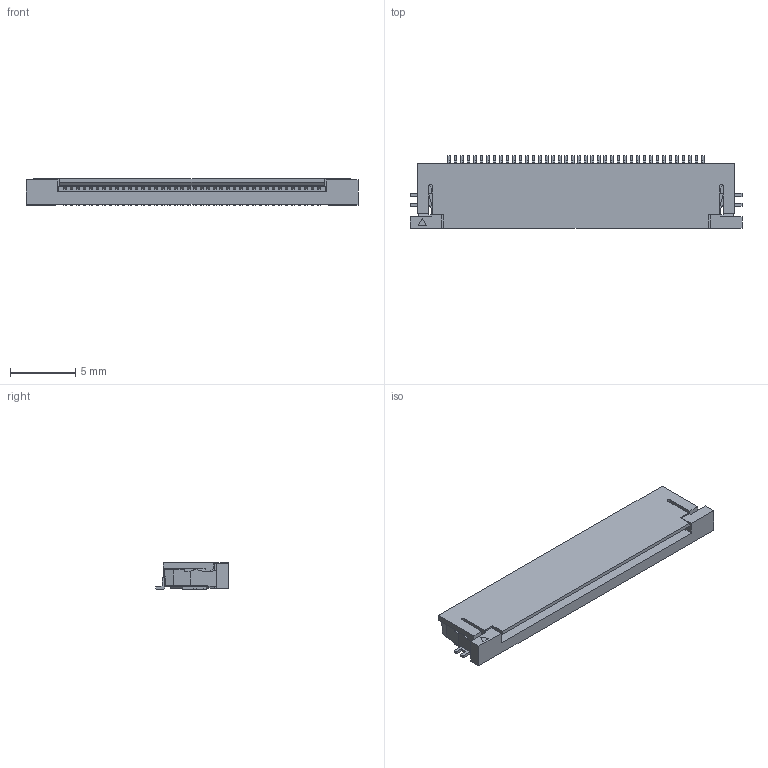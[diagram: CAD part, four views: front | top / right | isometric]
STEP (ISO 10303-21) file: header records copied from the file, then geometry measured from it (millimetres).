
FILE_DESCRIPTION(/* description */ (''),/* implementation_level */ '2;1');
FILE_NAME(/* name */ '541044031wbm000_02_214.stp',/* time_stamp */ '2022-12-16T18:09:24+08:00',/* author */ (''),/* organization */ (''),/* preprocessor_version */ 'ST-DEVELOPER v16.7',/* originating_system */ 'SIEMENS PLM Software NX 1919',/* authorisation */ '');
FILE_SCHEMA (('AUTOMOTIVE_DESIGN { 1 0 10303 214 3 1 1 1 }'));
Products named in the file (1): 541044031wbm000_02
Bounding box: 25.5 x 5.6 x 2.05 mm (x, y, z)
Surface area: 1378 mm2
Topology: 3 solids, 3 shells, 2122 faces, 6078 edges, 4032 vertices
Faces by surface type: plane 1996, cylinder 126
Entity records: 68052 total; most frequent: CARTESIAN_POINT 12233, ORIENTED_EDGE 12156, DIRECTION 10576, EDGE_CURVE 6078, LINE 5826, VECTOR 5826, VERTEX_POINT 4032, AXIS2_PLACEMENT_3D 2375
